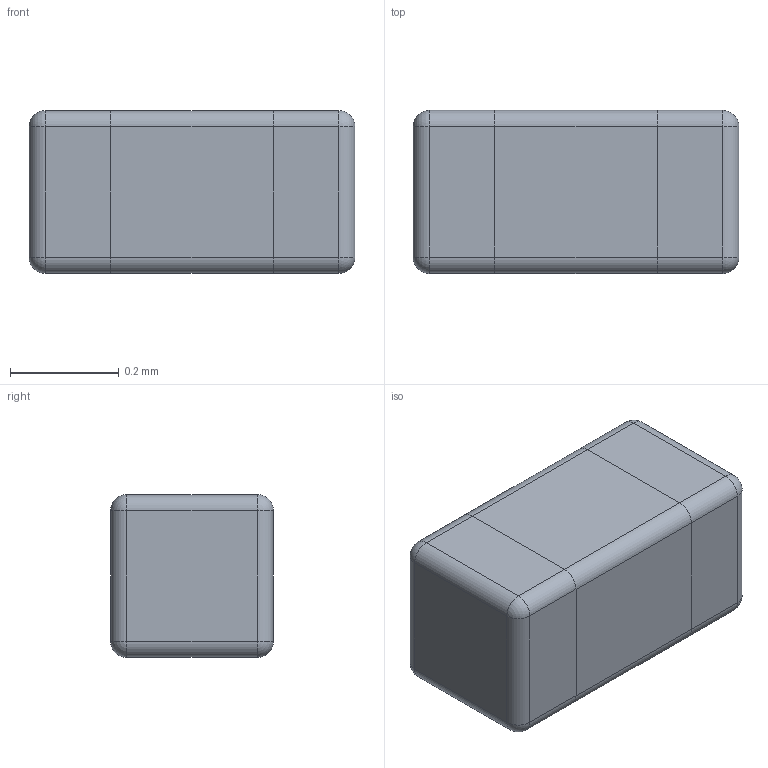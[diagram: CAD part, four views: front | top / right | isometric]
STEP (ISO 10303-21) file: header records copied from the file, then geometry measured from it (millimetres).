
FILE_DESCRIPTION(('FreeCAD Model'),'2;1');
FILE_NAME('Open CASCADE Shape Model','2022-02-08T11:06:17',(''),(''), 'Open CASCADE STEP processor 7.5','FreeCAD','Unknown');
FILE_SCHEMA(('AUTOMOTIVE_DESIGN { 1 0 10303 214 1 1 1 1 }'));
Length unit declared in the file: millimetre
Products named in the file (1): Fillet
Bounding box: 0.6 x 0.3 x 0.3 mm (x, y, z)
Volume: 0.1 mm3; surface area: 0.8 mm2
Topology: 1 solids, 1 shells, 42 faces, 88 edges, 40 vertices
Faces by surface type: cylinder 20, plane 14, sphere 8
Entity records: 2326 total; most frequent: CARTESIAN_POINT 371, DIRECTION 310, ORIENTED_EDGE 160, LINE 160, VECTOR 160, PCURVE 160, DEFINITIONAL_REPRESENTATION 160, EDGE_CURVE 80
